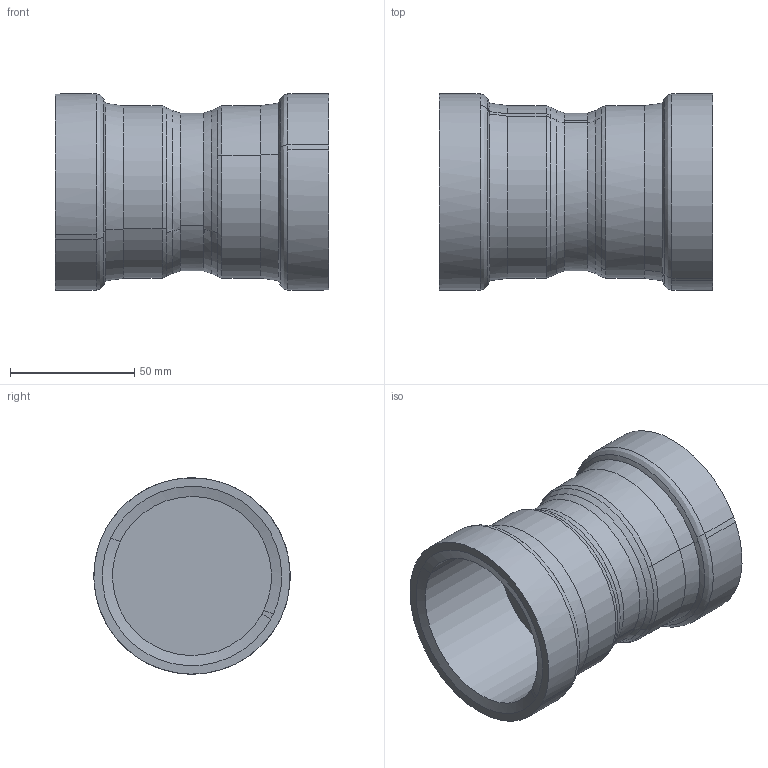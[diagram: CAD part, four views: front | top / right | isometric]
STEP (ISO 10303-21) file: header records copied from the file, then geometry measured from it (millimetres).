
FILE_DESCRIPTION(('STEP AP214'),'1');
FILE_NAME('pim0001349.stp','2015-03-17T09:27:13',('CAD-PIM'),('TransMagic, Inc.'),'TMR11sp0','TransMagic R11',' ');
FILE_SCHEMA(('AUTOMOTIVE_DESIGN'));
Length unit declared in the file: millimetre
Products named in the file (1): pim0001349
Bounding box: 110 x 78.97 x 78.99 mm (x, y, z)
Volume: 173405 mm3; surface area: 52827.9 mm2
Topology: 1 solids, 1 shells, 59 faces, 137 edges, 78 vertices
Faces by surface type: bspline 59
Entity records: 3193 total; most frequent: CARTESIAN_POINT 1985, ORIENTED_EDGE 266, EDGE_CURVE 133, VERTEX_POINT 78, EDGE_LOOP 61, STYLED_ITEM 60, PRESENTATION_STYLE_ASSIGNMENT 60, SURFACE_STYLE_USAGE 60
